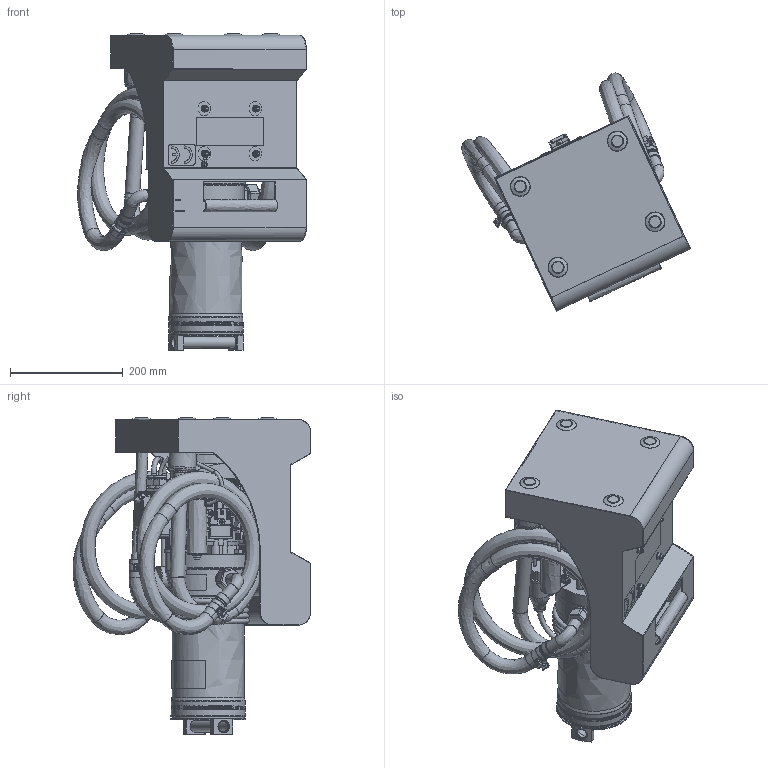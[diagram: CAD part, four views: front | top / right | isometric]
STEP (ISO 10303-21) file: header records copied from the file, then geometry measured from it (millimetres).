
FILE_DESCRIPTION((''),'2;1');
FILE_NAME('U:\Users\r.stiegele\11889300(332644)_mitkabel.stp', '2014-02-07T12:56:56',('User'),('SDRC'),'I-DEAS Master Series 9','UNIX', 'Yes');
FILE_SCHEMA(('AUTOMOTIVE_DESIGN { 1 0 10303 214 1 1 1 1 }'));
Length unit declared in the file: millimetre
Products named in the file (1): 11889300(332644)
Bounding box: 405.38 x 422.12 x 561.75 mm (x, y, z)
Volume: 9479696.8 mm3; surface area: 1428619.4 mm2
Topology: 2 solids, 21 shells, 2174 faces, 5406 edges, 3435 vertices
Faces by surface type: bspline 2174
Entity records: 79504 total; most frequent: CARTESIAN_POINT 48307, ORIENTED_EDGE 10790, EDGE_CURVE 5395, VERTEX_POINT 3435, EDGE_LOOP 2430, B_SPLINE_CURVE_WITH_KNOTS 2381, FACE_OUTER_BOUND 2174, ADVANCED_FACE 2174
